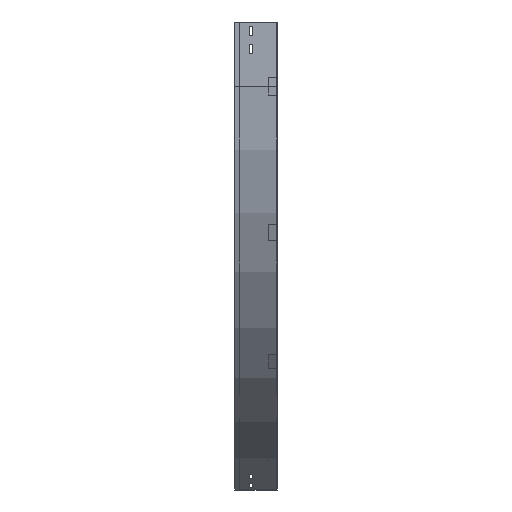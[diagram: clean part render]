
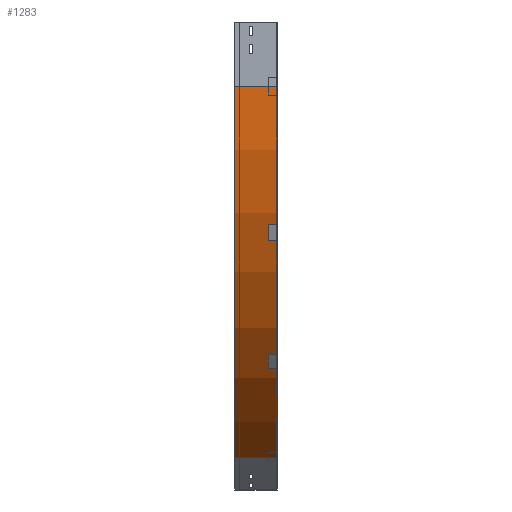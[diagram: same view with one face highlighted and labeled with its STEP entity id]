
A CAD part, left-side view. The second image highlights one B-rep face of the part: STEP entity #1283.
In plain terms, the highlighted cylindrical face has radius 1000 mm (diameter 2000 mm), a partial arc.
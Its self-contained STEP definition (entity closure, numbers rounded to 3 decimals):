
#73 = CARTESIAN_POINT ( 'NONE',  ( 1000., 100., -150. ) ) ;
#88 = EDGE_LOOP ( 'NONE', ( #2000, #2007, #2649, #1848 ) ) ;
#117 = DIRECTION ( 'NONE',  ( -1., 0., 0. ) ) ;
#234 = VERTEX_POINT ( 'NONE', #1238 ) ;
#273 = CARTESIAN_POINT ( 'NONE',  ( 1000., 0., -150. ) ) ;
#723 = CIRCLE ( 'NONE', #1725, 1000. ) ;
#738 = VECTOR ( 'NONE', #3083, 1000. ) ;
#763 = EDGE_CURVE ( 'NONE', #1136, #1678, #2023, .T. ) ;
#1136 = VERTEX_POINT ( 'NONE', #1835 ) ;
#1211 = EDGE_CURVE ( 'NONE', #1678, #1596, #1966, .T. ) ;
#1223 = AXIS2_PLACEMENT_3D ( 'NONE', #273, #3627, #1761 ) ;
#1234 = EDGE_CURVE ( 'NONE', #1136, #234, #723, .T. ) ;
#1238 = CARTESIAN_POINT ( 'NONE',  ( 500., 100., -1016.025 ) ) ;
#1283 = ADVANCED_FACE ( 'NONE', ( #3101 ), #1641, .T. ) ;
#1328 = CARTESIAN_POINT ( 'NONE',  ( 500., 0., -1016.025 ) ) ;
#1596 = VERTEX_POINT ( 'NONE', #2131 ) ;
#1597 = DIRECTION ( 'NONE',  ( 0., -1., 0. ) ) ;
#1641 = CYLINDRICAL_SURFACE ( 'NONE', #3584, 1000. ) ;
#1678 = VERTEX_POINT ( 'NONE', #1977 ) ;
#1725 = AXIS2_PLACEMENT_3D ( 'NONE', #73, #1597, #117 ) ;
#1761 = DIRECTION ( 'NONE',  ( -1., 0., 0. ) ) ;
#1835 = CARTESIAN_POINT ( 'NONE',  ( 0., 100., -150. ) ) ;
#1848 = ORIENTED_EDGE ( 'NONE', *, *, #2517, .T. ) ;
#1871 = CARTESIAN_POINT ( 'NONE',  ( 1000., 0., -150. ) ) ;
#1966 = CIRCLE ( 'NONE', #1223, 1000. ) ;
#1977 = CARTESIAN_POINT ( 'NONE',  ( 0., 0., -150. ) ) ;
#2000 = ORIENTED_EDGE ( 'NONE', *, *, #1211, .F. ) ;
#2007 = ORIENTED_EDGE ( 'NONE', *, *, #763, .F. ) ;
#2023 = LINE ( 'NONE', #3801, #3270 ) ;
#2131 = CARTESIAN_POINT ( 'NONE',  ( 500., 0., -1016.025 ) ) ;
#2245 = DIRECTION ( 'NONE',  ( 0., 0., -1. ) ) ;
#2517 = EDGE_CURVE ( 'NONE', #234, #1596, #3102, .T. ) ;
#2649 = ORIENTED_EDGE ( 'NONE', *, *, #1234, .T. ) ;
#2809 = DIRECTION ( 'NONE',  ( 0., -1., 0. ) ) ;
#3083 = DIRECTION ( 'NONE',  ( 0., -1., 0. ) ) ;
#3101 = FACE_OUTER_BOUND ( 'NONE', #88, .T. ) ;
#3102 = LINE ( 'NONE', #1328, #738 ) ;
#3270 = VECTOR ( 'NONE', #3448, 1000. ) ;
#3448 = DIRECTION ( 'NONE',  ( 0., -1., 0. ) ) ;
#3584 = AXIS2_PLACEMENT_3D ( 'NONE', #1871, #2809, #2245 ) ;
#3627 = DIRECTION ( 'NONE',  ( 0., -1., 0. ) ) ;
#3801 = CARTESIAN_POINT ( 'NONE',  ( 0., 0., -150. ) ) ;
